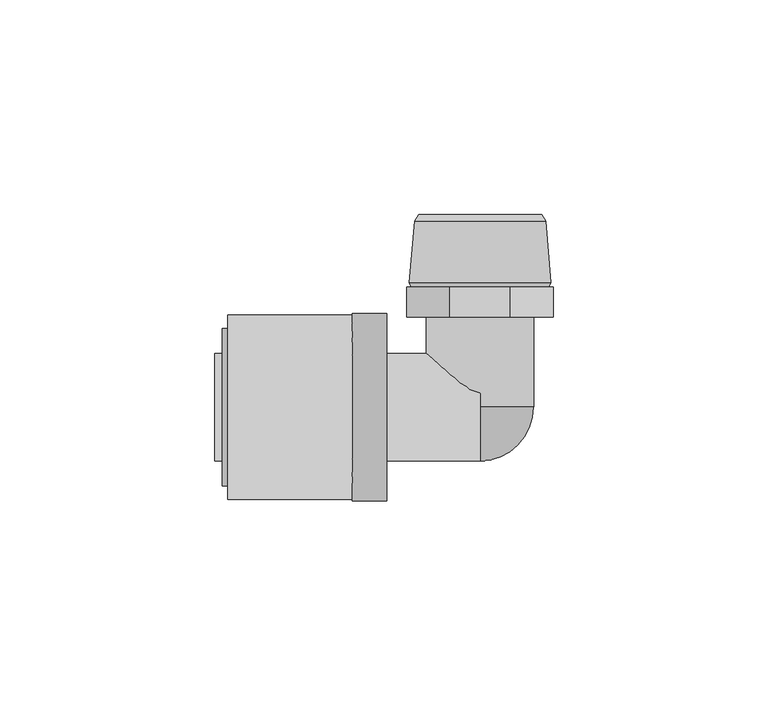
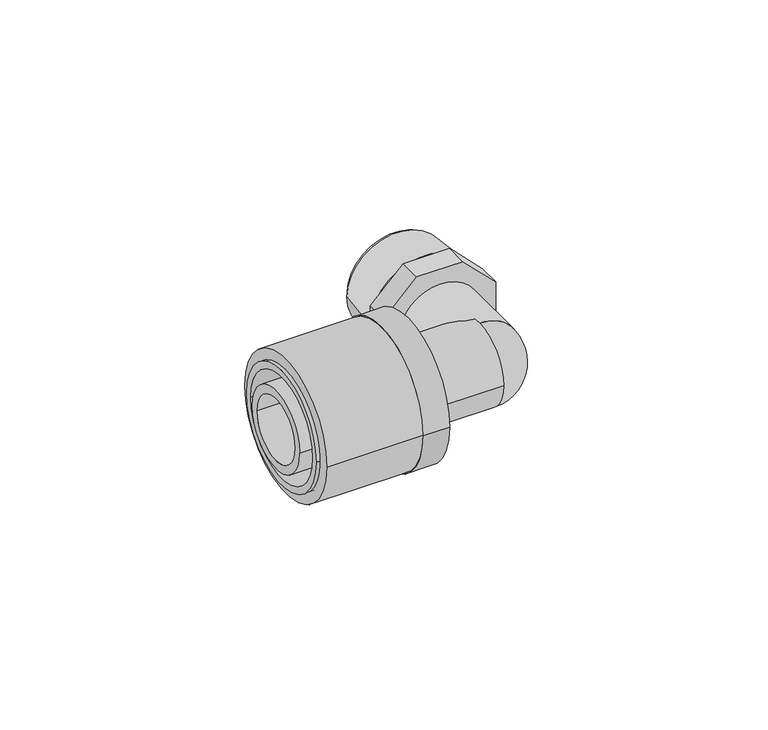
"""IFC4 building model written with IfcOpenShell, lengths in millimetres: pipe fitting geometry, FASTLOC_Elbow with male thread EX+ : FSL A internal AT."""

from ifc_helpers import new_model, si_unit, point, frame, origin, origin_2d, place, context, project, spatial, polyline, circle_curve, ellipse_curve, trimmed, segment, composite_curve, outline, extrude, source, transform, mapped, element, save
from ifc_brep_helpers import plane_surface, cylinder_surface, revolved_surface, advanced_brep


def pipe_fitting_3031d961(model_context):
    return source(origin(), model_context, "Body", "SolidModel", [
        extrude(outline(composite_curve([segment(trimmed(circle_curve(origin_2d(), 21.5), [point((21.5, 0.0))], [point((-21.5, 0.0))], False, "CARTESIAN"), True, "CONTINUOUS"), segment(trimmed(circle_curve(origin_2d(), 21.5), [point((-21.5, 0.0))], [point((21.5, 0.0))], False, "CARTESIAN"), True, "CONTINUOUS")], self_intersect=False), holes=[composite_curve([segment(trimmed(circle_curve(origin_2d(), 16.85), [point((16.85, 0.0))], [point((-16.85, 0.0))], True, "CARTESIAN"), True, "CONTINUOUS"), segment(trimmed(circle_curve(origin_2d(), 16.85), [point((-16.85, 0.0))], [point((16.85, 0.0))], True, "CARTESIAN"), True, "CONTINUOUS")], self_intersect=False)]), frame((-58.7, 0.0, 0.0), z_axis=(1.0, 0.0, 0.0), x_axis=(0.0, 1.0, 0.0)), (0.0, 0.0, 1.0), 29.0),
        advanced_brep(
        [(-29.7, -21.8, 0.0), (-29.7, 21.8, 0.0), (-21.7, 21.8, 0.0), (-21.7, -21.8, 0.0), (-60.0, -18.35, 0.0), (-60.0, 18.35, 0.0), (-29.7, 18.35, 0.0), (-29.7, -18.35, 0.0), (-21.7, -16.2, 0.0), (-21.7, 16.2, 0.0), (-60.0, 16.2, 0.0), (-60.0, -16.2, 0.0)],
        [
            (0, 1, circle_curve(frame((-29.7, 0.0, 0.0), z_axis=(1.0, 0.0, 0.0), x_axis=(0.0, 1.0, 0.0)), 21.8)),
            (1, 2),
            (2, 3, circle_curve(frame((-21.7, 0.0, 0.0), z_axis=(-1.0, 0.0, 0.0), x_axis=(0.0, 1.0, 0.0)), 21.8)),
            (3, 0),
            (4, 5, circle_curve(frame((-60.0, 0.0, 0.0), z_axis=(1.0, 0.0, 0.0), x_axis=(0.0, 1.0, 0.0)), 18.35)),
            (5, 6),
            (6, 7, circle_curve(frame((-29.7, 0.0, 0.0), z_axis=(-1.0, 0.0, 0.0), x_axis=(0.0, 1.0, 0.0)), 18.35)),
            (7, 4),
            (8, 9, circle_curve(frame((-21.7, 0.0, 0.0), z_axis=(1.0, 0.0, 0.0), x_axis=(0.0, 1.0, 0.0)), 16.2)),
            (9, 10),
            (10, 11, circle_curve(frame((-60.0, 0.0, 0.0), z_axis=(-1.0, 0.0, 0.0), x_axis=(0.0, 1.0, 0.0)), 16.2)),
            (11, 8),
            (1, 0, circle_curve(frame((-29.7, 0.0, 0.0), z_axis=(1.0, 0.0, 0.0), x_axis=(0.0, -1.0, 0.0)), 21.8)),
            (3, 2, circle_curve(frame((-21.7, 0.0, 0.0), z_axis=(-1.0, 0.0, 0.0), x_axis=(0.0, -1.0, 0.0)), 21.8)),
            (6, 7, circle_curve(frame((-29.7, 0.0, 0.0), z_axis=(1.0, 0.0, 0.0), x_axis=(0.0, -1.0, 0.0)), 18.35)),
            (5, 4, circle_curve(frame((-60.0, 0.0, 0.0), z_axis=(1.0, 0.0, 0.0), x_axis=(0.0, -1.0, 0.0)), 18.35)),
            (10, 11, circle_curve(frame((-60.0, 0.0, 0.0), z_axis=(1.0, 0.0, 0.0), x_axis=(0.0, -1.0, 0.0)), 16.2)),
            (9, 8, circle_curve(frame((-21.7, 0.0, 0.0), z_axis=(1.0, 0.0, 0.0), x_axis=(0.0, -1.0, 0.0)), 16.2)),
        ],
        [
            cylinder_surface(frame((-21.7, 0.0, 0.0), z_axis=(-1.0, 0.0, 0.0), x_axis=(0.0, 1.0, 0.0)), 21.8),
            cylinder_surface(frame((-21.7, 0.0, 0.0), z_axis=(-1.0, 0.0, 0.0), x_axis=(0.0, 1.0, 0.0)), 18.35),
            revolved_surface(polyline([(-60.0, 16.2, 0.0), (-21.7, 16.2, 0.0)]), (-21.7, 0.0, 0.0), (-1.0, 0.0, 0.0)),
            cylinder_surface(frame((-21.7, 0.0, 0.0), z_axis=(-1.0, 0.0, 0.0), x_axis=(0.0, -1.0, 0.0)), 21.8),
            plane_surface(frame((-29.7, 0.0, 0.0), z_axis=(-1.0, 0.0, 0.0), x_axis=(0.0, -1.0, 0.0))),
            cylinder_surface(frame((-21.7, 0.0, 0.0), z_axis=(-1.0, 0.0, 0.0), x_axis=(0.0, -1.0, 0.0)), 18.35),
            plane_surface(frame((-60.0, 0.0, 0.0), z_axis=(-1.0, 0.0, 0.0), x_axis=(0.0, -1.0, 0.0))),
            revolved_surface(polyline([(-60.0, -16.2, 0.0), (-21.7, -16.2, 0.0)]), (-21.7, 0.0, 0.0), (-1.0, 0.0, 0.0)),
            plane_surface(frame((-21.7, 0.0, 0.0), z_axis=(1.0, 0.0, 0.0), x_axis=(0.0, -1.0, 0.0))),
        ],
        [
            (0, [[1, 2, 3, 4]]),
            (1, [[5, 6, 7, 8]]),
            (2, [[9, 10, 11, 12]]),
            (3, [[13, -4, 14, -2]]),
            (4, [[-13, -1], [15, -7]]),
            (5, [[16, -8, -15, -6]]),
            (6, [[-16, -5], [17, -11]]),
            (7, [[18, -12, -17, -10]]),
            (8, [[-14, -3], [-18, -9]]),
        ],
    ),
        advanced_brep(
        [(15.25, 43.3000007, 0.0), (-15.25, 43.3000007, 0.0), (-14.3, 44.8, 0.0), (14.3, 44.8, 0.0), (16.5, 29.0531902, 0.0), (-16.5, 29.0531902, 0.0), (16.0, 28.0, 0.0), (-16.0, 28.0, 0.0), (12.0, 29.4157803, 0.0), (-12.0, 29.4157803, 0.0), (-10.8967197, 28.0, 0.0), (10.8967197, 28.0, 0.0), (12.0, 44.8, 0.0), (-12.0, 44.8, 0.0)],
        [
            (0, 1, circle_curve(frame((0.0, 43.3000007, 0.0), z_axis=(0.0, 1.0, 0.0), x_axis=(-1.0, 0.0, 0.0)), 15.25)),
            (1, 2),
            (2, 3, circle_curve(frame((0.0, 44.8, 0.0), z_axis=(0.0, -1.0, 0.0), x_axis=(-1.0, 0.0, 0.0)), 14.3)),
            (3, 0),
            (4, 5, circle_curve(frame((0.0, 29.0531902, 0.0), z_axis=(0.0, 1.0, 0.0), x_axis=(-1.0, 0.0, 0.0)), 16.5)),
            (5, 1),
            (0, 4),
            (6, 7, circle_curve(frame((0.0, 28.0, 0.0), z_axis=(0.0, 1.0, 0.0), x_axis=(-1.0, 0.0, 0.0)), 16.0)),
            (7, 5),
            (4, 6),
            (8, 9, circle_curve(frame((0.0, 29.4157803, 0.0), z_axis=(0.0, 1.0, 0.0), x_axis=(-1.0, 0.0, 0.0)), 12.0)),
            (9, 10),
            (10, 11, circle_curve(frame((0.0, 28.0, 0.0), z_axis=(0.0, -1.0, 0.0), x_axis=(-1.0, 0.0, 0.0)), 10.8967197)),
            (11, 8),
            (12, 13, circle_curve(frame((0.0, 44.8, 0.0), z_axis=(0.0, 1.0, 0.0), x_axis=(-1.0, 0.0, 0.0)), 12.0)),
            (13, 9),
            (8, 12),
            (2, 3, circle_curve(frame((0.0, 44.8, 0.0), z_axis=(0.0, 1.0, 0.0), x_axis=(1.0, 0.0, 0.0)), 14.3)),
            (12, 13, circle_curve(frame((0.0, 44.8, 0.0), z_axis=(0.0, -1.0, 0.0), x_axis=(1.0, 0.0, 0.0)), 12.0)),
            (1, 0, circle_curve(frame((0.0, 43.3000007, 0.0), z_axis=(0.0, 1.0, 0.0), x_axis=(1.0, 0.0, 0.0)), 15.25)),
            (5, 4, circle_curve(frame((0.0, 29.0531902, 0.0), z_axis=(0.0, 1.0, 0.0), x_axis=(1.0, 0.0, 0.0)), 16.5)),
            (7, 6, circle_curve(frame((0.0, 28.0, 0.0), z_axis=(0.0, 1.0, 0.0), x_axis=(1.0, 0.0, 0.0)), 16.0)),
            (10, 11, circle_curve(frame((0.0, 28.0, 0.0), z_axis=(0.0, 1.0, 0.0), x_axis=(1.0, 0.0, 0.0)), 10.8967197)),
            (9, 8, circle_curve(frame((0.0, 29.4157803, 0.0), z_axis=(0.0, 1.0, 0.0), x_axis=(1.0, 0.0, 0.0)), 12.0)),
        ],
        [
            revolved_surface(polyline([(-14.3, 44.8, 0.0), (-15.25, 43.3000007, 0.0)]), (0.0, 21.0, 0.0), (0.0, -1.0, 0.0)),
            revolved_surface(polyline([(-15.25, 43.3000007, 0.0), (-16.5, 29.0531902, 0.0)]), (0.0, 21.0, 0.0), (0.0, -1.0, 0.0)),
            revolved_surface(polyline([(-16.5, 29.0531902, 0.0), (-16.0, 28.0, 0.0)]), (0.0, 21.0, 0.0), (0.0, -1.0, 0.0)),
            revolved_surface(polyline([(-10.8967197, 28.0, 0.0), (-12.0, 29.4157803, 0.0)]), (0.0, 21.0, 0.0), (0.0, -1.0, 0.0)),
            revolved_surface(polyline([(-12.0, 29.4157803, 0.0), (-12.0, 44.8, 0.0)]), (0.0, 21.0, 0.0), (0.0, -1.0, 0.0)),
            plane_surface(frame((0.0, 44.8, 0.0), z_axis=(0.0, 1.0, 0.0), x_axis=(1.0, 0.0, 0.0))),
            revolved_surface(polyline([(14.3, 44.8, 0.0), (15.25, 43.3000007, 0.0)]), (0.0, 21.0, 0.0), (0.0, -1.0, 0.0)),
            revolved_surface(polyline([(15.25, 43.3000007, 0.0), (16.5, 29.0531902, 0.0)]), (0.0, 21.0, 0.0), (0.0, -1.0, 0.0)),
            revolved_surface(polyline([(16.5, 29.0531902, 0.0), (16.0, 28.0, 0.0)]), (0.0, 21.0, 0.0), (0.0, -1.0, 0.0)),
            plane_surface(frame((0.0, 28.0, 0.0), z_axis=(0.0, -1.0, 0.0), x_axis=(1.0, 0.0, 0.0))),
            revolved_surface(polyline([(10.8967197, 28.0, 0.0), (12.0, 29.4157803, 0.0)]), (0.0, 21.0, 0.0), (0.0, -1.0, 0.0)),
            revolved_surface(polyline([(12.0, 29.4157803, 0.0), (12.0, 44.8, 0.0)]), (0.0, 21.0, 0.0), (0.0, -1.0, 0.0)),
        ],
        [
            (0, [[1, 2, 3, 4]]),
            (1, [[5, 6, -1, 7]]),
            (2, [[8, 9, -5, 10]]),
            (3, [[11, 12, 13, 14]]),
            (4, [[15, 16, -11, 17]]),
            (5, [[18, -3], [19, -15]]),
            (6, [[20, -4, -18, -2]]),
            (7, [[21, -7, -20, -6]]),
            (8, [[22, -10, -21, -9]]),
            (9, [[-22, -8], [23, -13]]),
            (10, [[24, -14, -23, -12]]),
            (11, [[-19, -17, -24, -16]]),
        ],
    ),
        advanced_brep(
        [(-29.7, 12.5, 0.0), (-29.7, -12.5, 0.0), (-61.7, -12.5, 0.0), (-61.7, 12.5, 0.0), (-26.7, 14.1, 0.0), (-26.7, -14.1, 0.0), (-29.7, -14.1, 0.0), (-29.7, 14.1, 0.0), (0.0, 12.5, 0.0), (0.0, -12.5, 0.0), (-26.7, -12.5, 0.0), (-26.7, 12.5, 0.0), (-61.7, 9.85, 0.0), (-61.7, -9.85, 0.0), (0.0, -9.85, 0.0), (0.0, 9.85, 0.0)],
        [
            (0, 1, circle_curve(frame((-29.7, 0.0, 0.0), z_axis=(-1.0, 0.0, 0.0), x_axis=(0.0, -1.0, 0.0)), 12.5)),
            (1, 2),
            (2, 3, circle_curve(frame((-61.7, 0.0, 0.0), z_axis=(1.0, 0.0, 0.0), x_axis=(0.0, -1.0, 0.0)), 12.5)),
            (3, 0),
            (4, 5, circle_curve(frame((-26.7, 0.0, 0.0), z_axis=(-1.0, 0.0, 0.0), x_axis=(0.0, -1.0, 0.0)), 14.1)),
            (5, 6),
            (6, 7, circle_curve(frame((-29.7, 0.0, 0.0), z_axis=(1.0, 0.0, 0.0), x_axis=(0.0, -1.0, 0.0)), 14.1)),
            (7, 4),
            (8, 9, circle_curve(frame((0.0, 0.0, 0.0), z_axis=(-1.0, 0.0, 0.0), x_axis=(0.0, -1.0, 0.0)), 12.5)),
            (9, 10),
            (10, 11, circle_curve(frame((-26.7, 0.0, 0.0), z_axis=(1.0, 0.0, 0.0), x_axis=(0.0, -1.0, 0.0)), 12.5)),
            (11, 8),
            (12, 13, circle_curve(frame((-61.7, 0.0, 0.0), z_axis=(-1.0, 0.0, 0.0), x_axis=(0.0, -1.0, 0.0)), 9.85)),
            (13, 14),
            (14, 15, circle_curve(frame((0.0, 0.0, 0.0), z_axis=(1.0, 0.0, 0.0), x_axis=(0.0, -1.0, 0.0)), 9.85)),
            (15, 12),
            (2, 3, circle_curve(frame((-61.7, 0.0, 0.0), z_axis=(-1.0, 0.0, 0.0), x_axis=(0.0, 1.0, 0.0)), 12.5)),
            (12, 13, circle_curve(frame((-61.7, 0.0, 0.0), z_axis=(1.0, 0.0, 0.0), x_axis=(0.0, 1.0, 0.0)), 9.85)),
            (1, 0, circle_curve(frame((-29.7, 0.0, 0.0), z_axis=(-1.0, 0.0, 0.0), x_axis=(0.0, 1.0, 0.0)), 12.5)),
            (6, 7, circle_curve(frame((-29.7, 0.0, 0.0), z_axis=(-1.0, 0.0, 0.0), x_axis=(0.0, 1.0, 0.0)), 14.1)),
            (5, 4, circle_curve(frame((-26.7, 0.0, 0.0), z_axis=(-1.0, 0.0, 0.0), x_axis=(0.0, 1.0, 0.0)), 14.1)),
            (10, 11, circle_curve(frame((-26.7, 0.0, 0.0), z_axis=(-1.0, 0.0, 0.0), x_axis=(0.0, 1.0, 0.0)), 12.5)),
            (9, 8, circle_curve(frame((0.0, 0.0, 0.0), z_axis=(-1.0, 0.0, 0.0), x_axis=(0.0, 1.0, 0.0)), 12.5)),
            (14, 15, circle_curve(frame((0.0, 0.0, 0.0), z_axis=(-1.0, 0.0, 0.0), x_axis=(0.0, 1.0, 0.0)), 9.85)),
        ],
        [
            cylinder_surface(frame((0.0, 0.0, 0.0), z_axis=(1.0, 0.0, 0.0), x_axis=(0.0, -1.0, 0.0)), 12.5),
            cylinder_surface(frame((0.0, 0.0, 0.0), z_axis=(1.0, 0.0, 0.0), x_axis=(0.0, -1.0, 0.0)), 14.1),
            revolved_surface(polyline([(0.0, -9.85, 0.0), (-61.7, -9.85, 0.0)]), (0.0, 0.0, 0.0), (1.0, 0.0, 0.0)),
            plane_surface(frame((-61.7, 0.0, 0.0), z_axis=(-1.0, 0.0, 0.0), x_axis=(0.0, 1.0, 0.0))),
            cylinder_surface(frame((0.0, 0.0, 0.0), z_axis=(1.0, 0.0, 0.0), x_axis=(0.0, 1.0, 0.0)), 12.5),
            plane_surface(frame((-29.7, 0.0, 0.0), z_axis=(-1.0, 0.0, 0.0), x_axis=(0.0, 1.0, 0.0))),
            cylinder_surface(frame((0.0, 0.0, 0.0), z_axis=(1.0, 0.0, 0.0), x_axis=(0.0, 1.0, 0.0)), 14.1),
            plane_surface(frame((-26.7, 0.0, 0.0), z_axis=(1.0, 0.0, 0.0), x_axis=(0.0, 1.0, 0.0))),
            plane_surface(frame((0.0, 0.0, 0.0), z_axis=(1.0, 0.0, 0.0), x_axis=(0.0, 1.0, 0.0))),
            revolved_surface(polyline([(0.0, 9.85, 0.0), (-61.7, 9.85, 0.0)]), (0.0, 0.0, 0.0), (1.0, 0.0, 0.0)),
        ],
        [
            (0, [[1, 2, 3, 4]]),
            (1, [[5, 6, 7, 8]]),
            (0, [[9, 10, 11, 12]]),
            (2, [[13, 14, 15, 16]]),
            (3, [[17, -3], [18, -13]]),
            (4, [[19, -4, -17, -2]]),
            (5, [[20, -7], [-19, -1]]),
            (6, [[21, -8, -20, -6]]),
            (7, [[-21, -5], [22, -11]]),
            (4, [[23, -12, -22, -10]]),
            (8, [[-23, -9], [24, -15]]),
            (9, [[-18, -16, -24, -14]]),
        ],
    ),
        advanced_brep(
        [(0.0, -12.5, 0.0), (0.0, 0.0, 12.5), (0.0, 0.0, 9.85), (0.0, -9.85, 0.0), (0.0, 0.0, -9.85), (0.0, 0.0, -12.5)],
        [
            (0, 1, circle_curve(frame((0.0, 0.0, 0.0), z_axis=(-1.0, 0.0, 0.0), x_axis=(0.0, 0.0, 1.0)), 12.5)),
            (1, 2),
            (2, 3, circle_curve(frame((0.0, 0.0, 0.0), z_axis=(1.0, 0.0, 0.0), x_axis=(0.0, 0.0, 1.0)), 9.85)),
            (3, 0),
            (3, 4, circle_curve(frame((0.0, 0.0, 0.0), z_axis=(1.0, 0.0, 0.0), x_axis=(0.0, 0.0, -1.0)), 9.85)),
            (4, 5),
            (5, 0, circle_curve(frame((0.0, 0.0, 0.0), z_axis=(-1.0, 0.0, 0.0), x_axis=(0.0, 0.0, -1.0)), 12.5)),
            (5, 1, circle_curve(frame((0.0, 0.0, 0.0), z_axis=(0.0, -1.0, 0.0), x_axis=(0.0, 0.0, 1.0)), 12.5)),
            (4, 2, circle_curve(frame((0.0, 0.0, 0.0), z_axis=(0.0, -1.0, 0.0), x_axis=(0.0, 0.0, 1.0)), 9.85)),
        ],
        [
            plane_surface(frame((0.0, 0.0, 0.0), z_axis=(-1.0, 0.0, 0.0), x_axis=(0.0, 0.0, 1.0))),
            plane_surface(frame((0.0, 0.0, 0.0), z_axis=(-1.0, 0.0, 0.0), x_axis=(0.0, 0.0, -1.0))),
            revolved_surface(trimmed(ellipse_curve(frame((0.0, 0.0, 0.0), z_axis=(-1.0, 0.0, 0.0), x_axis=(0.0, 0.0, 1.0)), 12.5, 12.5), [point((0.0, -12.5, 0.0))], [point((0.0, 0.0, 12.5))], True, "CARTESIAN"), (0.0, 0.0, 0.0), (0.0, 1.0, 0.0)),
            plane_surface(frame((0.0, 0.0, 0.0), z_axis=(0.0, 1.0, 0.0), x_axis=(0.0, 0.0, 1.0))),
            revolved_surface(trimmed(ellipse_curve(frame((0.0, 0.0, 0.0), z_axis=(1.0, 0.0, 0.0), x_axis=(0.0, 0.0, 1.0)), 9.85, 9.85), [point((0.0, 0.0, 9.85))], [point((0.0, -9.85, 0.0))], True, "CARTESIAN"), (0.0, 0.0, 0.0), (0.0, 1.0, 0.0)),
        ],
        [
            (0, [[1, 2, 3, 4]]),
            (1, [[5, 6, 7, -4]]),
            (2, [[8, -1, -7]]),
            (3, [[9, -2, -8, -6]]),
            (4, [[-3, -9, -5]]),
        ],
    ),
        extrude(outline(polyline([(-17.0, 7.0416306), (-7.0416306, 17.0), (7.0416306, 17.0), (17.0, 7.0416306), (17.0, -7.0416306), (7.0416306, -17.0), (-7.0416306, -17.0), (-17.0, -7.0416306), (-17.0, 7.0416306)])), frame((0.0, 21.0, 0.0), z_axis=(0.0, 1.0, 0.0), x_axis=(0.0, 0.0, 1.0)), (0.0, 0.0, 1.0), 7.0),
        extrude(outline(composite_curve([segment(trimmed(circle_curve(origin_2d(), 12.5), [point((0.0, -12.5))], [point((0.0, 12.5))], False, "CARTESIAN"), True, "CONTINUOUS"), segment(trimmed(circle_curve(origin_2d(), 12.5), [point((0.0, 12.5))], [point((0.0, -12.5))], False, "CARTESIAN"), True, "CONTINUOUS")], self_intersect=False), holes=[composite_curve([segment(trimmed(circle_curve(origin_2d(), 9.85), [point((0.0, -9.85))], [point((0.0, 9.85))], True, "CARTESIAN"), True, "CONTINUOUS"), segment(trimmed(circle_curve(origin_2d(), 9.85), [point((0.0, 9.85))], [point((0.0, -9.85))], True, "CARTESIAN"), True, "CONTINUOUS")], self_intersect=False)]), frame((0.0, 0.0, 0.0), z_axis=(0.0, 1.0, 0.0), x_axis=(0.0, 0.0, 1.0)), (0.0, 0.0, 1.0), 21.0),
    ])


if __name__ == "__main__":
    model = new_model("IFC4")
    model_context = context("Model", 3, world=origin())
    ifc_project = project(units=[si_unit("LENGTHUNIT", "METRE", prefix="MILLI")], contexts=[model_context])
    site = spatial("IfcSite", under=ifc_project)
    building = spatial("IfcBuilding", under=site)
    placement = place(None, origin())
    pipe_fitting_shape = pipe_fitting_3031d961(model_context)
    element("IfcPipeFitting", 1, ObjectType="FASTLOC_Elbow with male thread EX+ : FSL A internal AT", at=placement, inside=building, context=model_context, shape_type="MappedRepresentation", body=[
        mapped(pipe_fitting_shape, transform((0.0, 0.0, 0.0), x_axis=(1.0, 0.0, 0.0), y_axis=(0.0, 1.0, 0.0), z_axis=(0.0, 0.0, 1.0))),
    ])
    save(model, "model.ifc")
